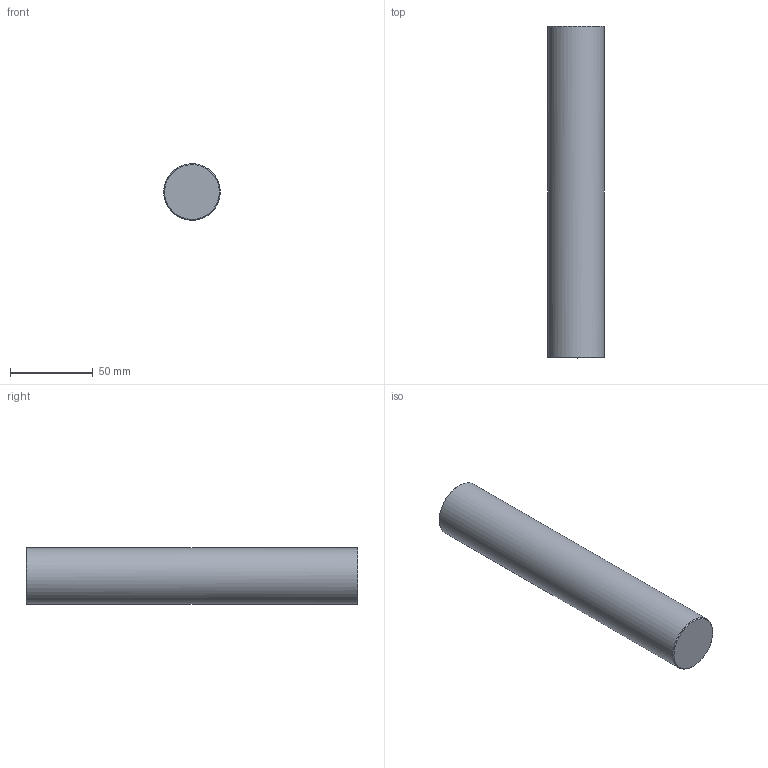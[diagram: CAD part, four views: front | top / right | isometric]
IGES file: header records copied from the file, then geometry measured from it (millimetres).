
Global section: file name: BM02-34D-200L; native system: unknown; preprocessor: unknown; author: unknown; organization: unknown; date: 20231024.135646; units: millimetre
Bounding box: 33.99 x 200 x 34 mm (x, y, z)
Volume: 180926.4 mm3; surface area: 23564.6 mm2
Topology: 1 solids, 1 shells, 7 faces, 14 edges, 9 vertices
Faces by surface type: bspline 7
